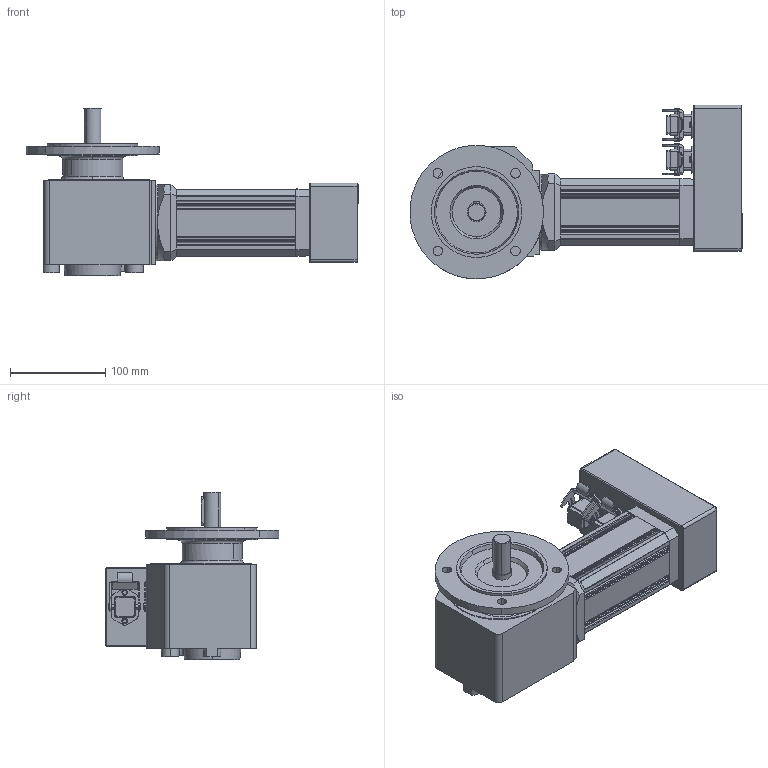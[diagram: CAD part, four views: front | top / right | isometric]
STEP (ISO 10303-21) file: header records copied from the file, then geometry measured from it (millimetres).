
FILE_DESCRIPTION(('OneSpaceDesigner STEP Export'),'2;1');
FILE_NAME('UECG323TH_ZF45.stp','2009-04-01T15:18:43',(''),(''),'OneSpace Designer STEP processor (Jan. 2003) for AP214(CD)(Solid Model)','OneSpace Designer 12.01D 09-Jul-2004 (C) CoCreate Software GmbH','');
FILE_SCHEMA(('AUTOMOTIVE_DESIGN_CC2 {1 2 10303 214 -1 1 5 1}'));
Length unit declared in the file: millimetre
Products named in the file (3): UECG323TH_ZF45_F; UECG323TH_ZF45.stp
Assembly tree (2 placements, depth 3):
  UECG323TH_ZF45.stp
    UECG323TH_ZF45_F
      UECG323TH_ZF45_F
Bounding box: 347.73 x 181.81 x 175.5 mm (x, y, z)
Volume: 2824668.9 mm3; surface area: 215302.1 mm2
Topology: 1 solids, 1 shells, 565 faces, 1509 edges, 980 vertices
Faces by surface type: cylinder 271, plane 244, torus 28, bspline 12, cone 10
Entity records: 24301 total; most frequent: CARTESIAN_POINT 10911, ORIENTED_EDGE 3018, DIRECTION 2580, EDGE_CURVE 1509, VERTEX_POINT 980, AXIS2_PLACEMENT_3D 895, VECTOR 790, LINE 790
